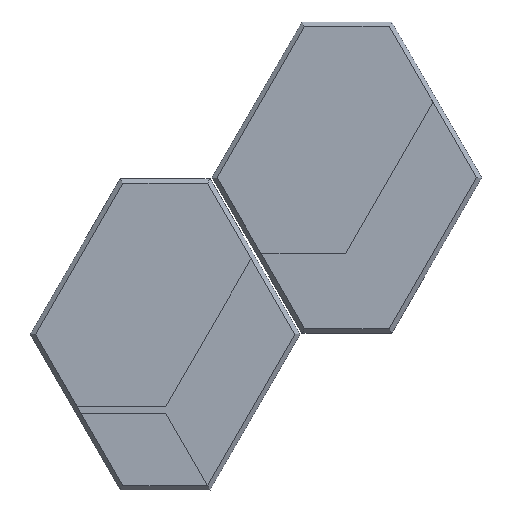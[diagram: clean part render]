
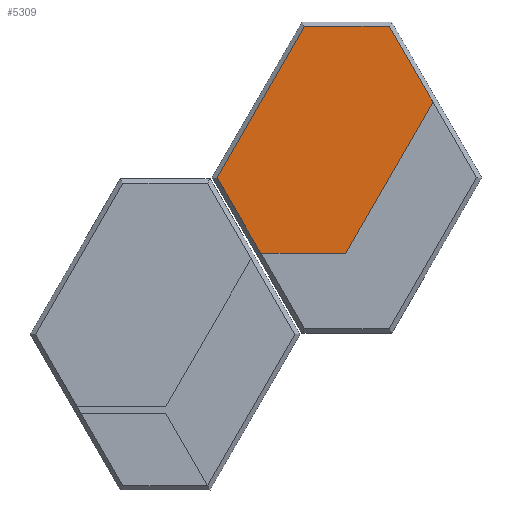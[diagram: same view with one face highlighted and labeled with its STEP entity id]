
A CAD part, front view. The second image highlights one B-rep face of the part: STEP entity #5309.
In plain terms, the highlighted planar face has unit normal (0, -1, 0) as drawn and (0, 0, 1) by its records, which use the part's own axes.
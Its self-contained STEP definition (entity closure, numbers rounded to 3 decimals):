
#140 = VECTOR ( 'NONE', #3818, 1000. ) ;
#310 = VECTOR ( 'NONE', #4664, 1000. ) ;
#736 = CARTESIAN_POINT ( 'NONE',  ( 0., 0., 20. ) ) ;
#793 = ORIENTED_EDGE ( 'NONE', *, *, #3205, .T. ) ;
#932 = VERTEX_POINT ( 'NONE', #2392 ) ;
#1418 = CARTESIAN_POINT ( 'NONE',  ( 0., -170., 20. ) ) ;
#1440 = VECTOR ( 'NONE', #4780, 1000. ) ;
#1505 = VECTOR ( 'NONE', #4790, 1000. ) ;
#1742 = EDGE_CURVE ( 'NONE', #7575, #6849, #2332, .T. ) ;
#2152 = EDGE_CURVE ( 'NONE', #3283, #7575, #6021, .T. ) ;
#2187 = CARTESIAN_POINT ( 'NONE',  ( -3.007, -170., 20. ) ) ;
#2309 = CARTESIAN_POINT ( 'NONE',  ( 218.679, 126.365, 20. ) ) ;
#2332 = LINE ( 'NONE', #3506, #4073 ) ;
#2343 = CARTESIAN_POINT ( 'NONE',  ( -218.679, -126.365, 20. ) ) ;
#2392 = CARTESIAN_POINT ( 'NONE',  ( 193.465, 170., 20. ) ) ;
#2505 = DIRECTION ( 'NONE',  ( 1., 0., 0. ) ) ;
#2682 = CARTESIAN_POINT ( 'NONE',  ( -193.465, -170., 20. ) ) ;
#2752 = EDGE_CURVE ( 'NONE', #3458, #7486, #4968, .T. ) ;
#3205 = EDGE_CURVE ( 'NONE', #932, #3283, #6603, .T. ) ;
#3266 = EDGE_CURVE ( 'NONE', #6849, #3458, #6009, .T. ) ;
#3283 = VERTEX_POINT ( 'NONE', #5339 ) ;
#3435 = CARTESIAN_POINT ( 'NONE',  ( 71.39, -41.253, 20. ) ) ;
#3458 = VERTEX_POINT ( 'NONE', #2682 ) ;
#3506 = CARTESIAN_POINT ( 'NONE',  ( -218.679, 126.365, 20. ) ) ;
#3619 = DIRECTION ( 'NONE',  ( -0.5, -0.866, 0. ) ) ;
#3818 = DIRECTION ( 'NONE',  ( 1., 0., 0. ) ) ;
#4073 = VECTOR ( 'NONE', #3619, 1000. ) ;
#4100 = VECTOR ( 'NONE', #5697, 1000. ) ;
#4316 = EDGE_CURVE ( 'NONE', #7486, #932, #6139, .T. ) ;
#4335 = PLANE ( 'NONE',  #5238 ) ;
#4427 = ORIENTED_EDGE ( 'NONE', *, *, #2752, .T. ) ;
#4560 = EDGE_LOOP ( 'NONE', ( #4427, #6770, #793, #4766, #5470, #7619 ) ) ;
#4664 = DIRECTION ( 'NONE',  ( -0.5, 0.866, 0. ) ) ;
#4766 = ORIENTED_EDGE ( 'NONE', *, *, #2152, .T. ) ;
#4780 = DIRECTION ( 'NONE',  ( 0.5, -0.866, 0. ) ) ;
#4790 = DIRECTION ( 'NONE',  ( -1., 0., 0. ) ) ;
#4968 = LINE ( 'NONE', #1418, #140 ) ;
#5238 = AXIS2_PLACEMENT_3D ( 'NONE', #736, #5420, #2505 ) ;
#5309 = ADVANCED_FACE ( 'NONE', ( #6204 ), #4335, .T. ) ;
#5339 = CARTESIAN_POINT ( 'NONE',  ( 95.229, 340., 20. ) ) ;
#5411 = CARTESIAN_POINT ( 'NONE',  ( -291.7, 0., 20. ) ) ;
#5420 = DIRECTION ( 'NONE',  ( 0., 0., 1. ) ) ;
#5470 = ORIENTED_EDGE ( 'NONE', *, *, #1742, .T. ) ;
#5697 = DIRECTION ( 'NONE',  ( 0.5, 0.866, 0. ) ) ;
#6009 = LINE ( 'NONE', #2343, #1440 ) ;
#6021 = LINE ( 'NONE', #7787, #1505 ) ;
#6139 = LINE ( 'NONE', #3435, #4100 ) ;
#6204 = FACE_OUTER_BOUND ( 'NONE', #4560, .T. ) ;
#6533 = CARTESIAN_POINT ( 'NONE',  ( -95.229, 340., 20. ) ) ;
#6603 = LINE ( 'NONE', #2309, #310 ) ;
#6770 = ORIENTED_EDGE ( 'NONE', *, *, #4316, .T. ) ;
#6849 = VERTEX_POINT ( 'NONE', #5411 ) ;
#7486 = VERTEX_POINT ( 'NONE', #2187 ) ;
#7575 = VERTEX_POINT ( 'NONE', #6533 ) ;
#7619 = ORIENTED_EDGE ( 'NONE', *, *, #3266, .T. ) ;
#7787 = CARTESIAN_POINT ( 'NONE',  ( 0., 340., 20. ) ) ;
